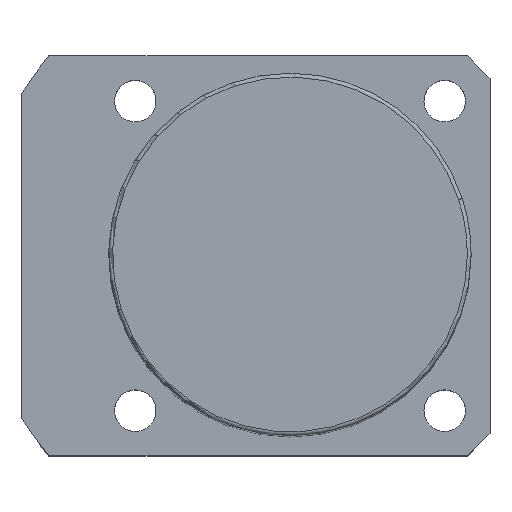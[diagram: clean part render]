
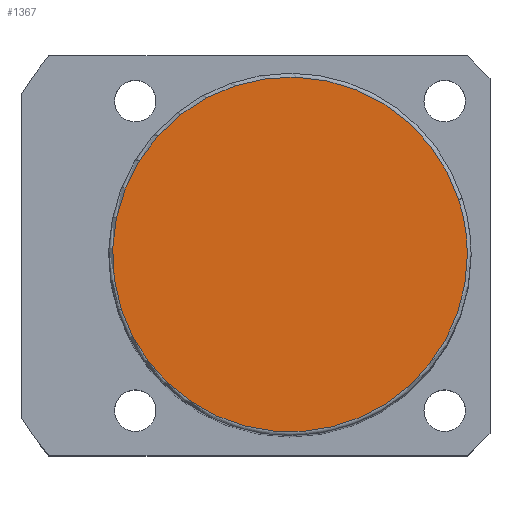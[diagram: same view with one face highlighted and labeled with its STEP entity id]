
A CAD part, top view. The second image highlights one B-rep face of the part: STEP entity #1367.
In plain terms, the highlighted planar face has unit normal (0, 0, 1).
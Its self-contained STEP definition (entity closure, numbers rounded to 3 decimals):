
#1333=CARTESIAN_POINT('',(23.5,0.0,119.0));
#1334=VERTEX_POINT('',#1333);
#1335=CARTESIAN_POINT('',(22.35,7.262,119.0));
#1336=VERTEX_POINT('',#1335);
#1337=CARTESIAN_POINT('',(0.0,0.0,119.0));
#1338=DIRECTION('',(0.0,0.0,1.0));
#1339=DIRECTION('',(1.0,0.0,0.0));
#1340=AXIS2_PLACEMENT_3D('',#1337,#1338,#1339);
#1341=CIRCLE('',#1340,23.5);
#1342=EDGE_CURVE('no 1858',#1334,#1336,#1341,.T.);
#1343=ORIENTED_EDGE('',*,*,#1342,.T.);
#1344=CARTESIAN_POINT('',(-22.35,-7.262,119.0));
#1345=VERTEX_POINT('',#1344);
#1346=CARTESIAN_POINT('',(0.0,0.0,119.0));
#1347=DIRECTION('',(0.0,0.0,1.0));
#1348=DIRECTION('',(1.0,0.0,0.0));
#1349=AXIS2_PLACEMENT_3D('',#1346,#1347,#1348);
#1350=CIRCLE('',#1349,23.5);
#1351=EDGE_CURVE('no 1864',#1336,#1345,#1350,.T.);
#1352=ORIENTED_EDGE('',*,*,#1351,.T.);
#1353=CARTESIAN_POINT('',(0.0,0.0,119.0));
#1354=DIRECTION('',(0.0,0.0,1.0));
#1355=DIRECTION('',(1.0,0.0,0.0));
#1356=AXIS2_PLACEMENT_3D('',#1353,#1354,#1355);
#1357=CIRCLE('',#1356,23.5);
#1358=EDGE_CURVE('no 1868',#1345,#1334,#1357,.T.);
#1359=ORIENTED_EDGE('',*,*,#1358,.T.);
#1360=EDGE_LOOP('',(#1343,#1352,#1359));
#1361=FACE_OUTER_BOUND('',#1360,.T.);
#1362=CARTESIAN_POINT('',(0.0,0.0,119.0));
#1363=DIRECTION('',(0.0,0.0,1.0));
#1364=DIRECTION('',(1.0,0.0,0.0));
#1365=AXIS2_PLACEMENT_3D('',#1362,#1363,#1364);
#1366=PLANE('',#1365);
#1367=ADVANCED_FACE('no 1849',(#1361),#1366,.T.);
